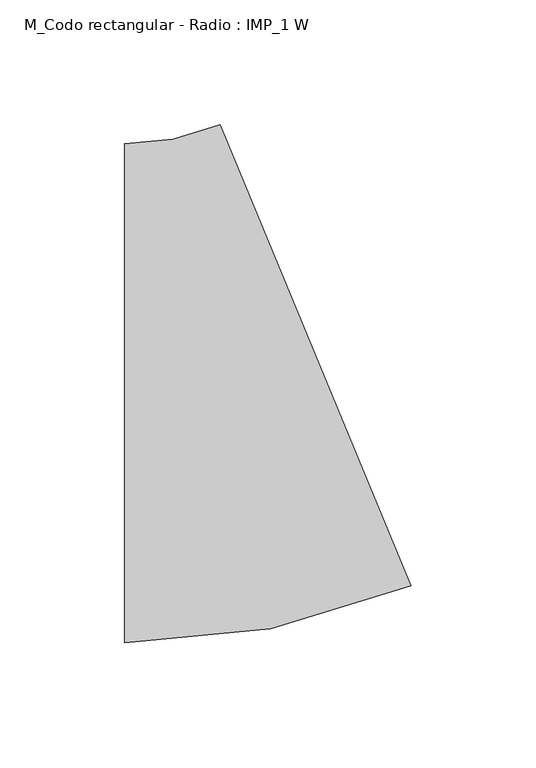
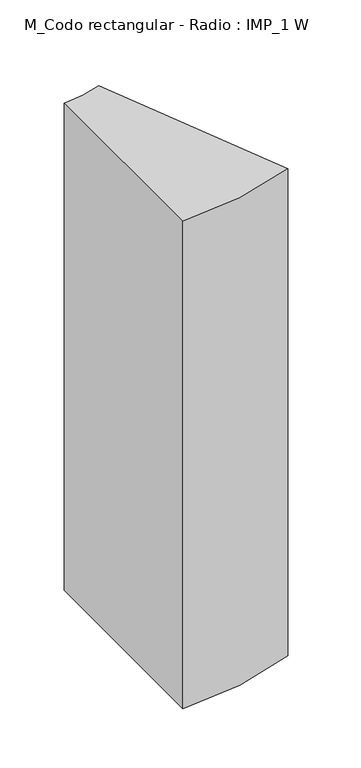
"""IFC4 building model written with IfcOpenShell, lengths in millimetres: duct fitting geometry, M_Codo rectangular - Radio : IMP_1 W."""

from ifc_helpers import new_model, si_unit, point, frame, frame_2d, origin, place, context, project, spatial, polyline, circle_curve, trimmed, segment, composite_curve, outline, extrude, source, transform, mapped, element, save


def m_codo_rectangular_radio_imp_1_w_4a62f7f6(model_context):
    return source(origin(), model_context, "Body", "SweptSolid", [
        extrude(outline(composite_curve([segment(trimmed(circle_curve(frame_2d((-39.7825015, 200.0)), 300.0), [point((75.022603, -77.1638288))], [point((-39.7825015, -100.0))], False, "CARTESIAN"), True, "CONTINUOUS"), segment(polyline([(-39.7825015, -100.0), (-39.7825015, 100.0)]), True, "CONTINUOUS"), segment(trimmed(circle_curve(frame_2d((-39.7825015, 200.0)), 100.0), [point((-39.7825015, 100.0))], [point((-1.5141334, 107.6120571))], True, "CARTESIAN"), True, "CONTINUOUS"), segment(polyline([(-1.5141334, 107.6120571), (75.022603, -77.1638288)]), True, "CONTINUOUS")], self_intersect=False)), frame((0.0, 0.0, -250.0), z_axis=(0.0, 0.0, 1.0), x_axis=(1.0, 0.0, 0.0)), (0.0, 0.0, 1.0), 500.0),
    ])


if __name__ == "__main__":
    model = new_model("IFC4")
    model_context = context("Model", 3, world=origin())
    ifc_project = project(units=[si_unit("LENGTHUNIT", "METRE", prefix="MILLI")], contexts=[model_context])
    site = spatial("IfcSite", under=ifc_project)
    building = spatial("IfcBuilding", under=site)
    placement = place(None, origin())
    m_codo_rectangular_radio_imp_1_w_shape = m_codo_rectangular_radio_imp_1_w_4a62f7f6(model_context)
    element("IfcDuctFitting", 1, ObjectType="M_Codo rectangular - Radio : IMP_1 W", at=placement, inside=building, context=model_context, shape_type="MappedRepresentation", body=[
        mapped(m_codo_rectangular_radio_imp_1_w_shape, transform((0.0, 0.0, 0.0), x_axis=(1.0, 0.0, 0.0), y_axis=(0.0, 1.0, 0.0), z_axis=(0.0, 0.0, 1.0))),
    ])
    save(model, "model.ifc")
